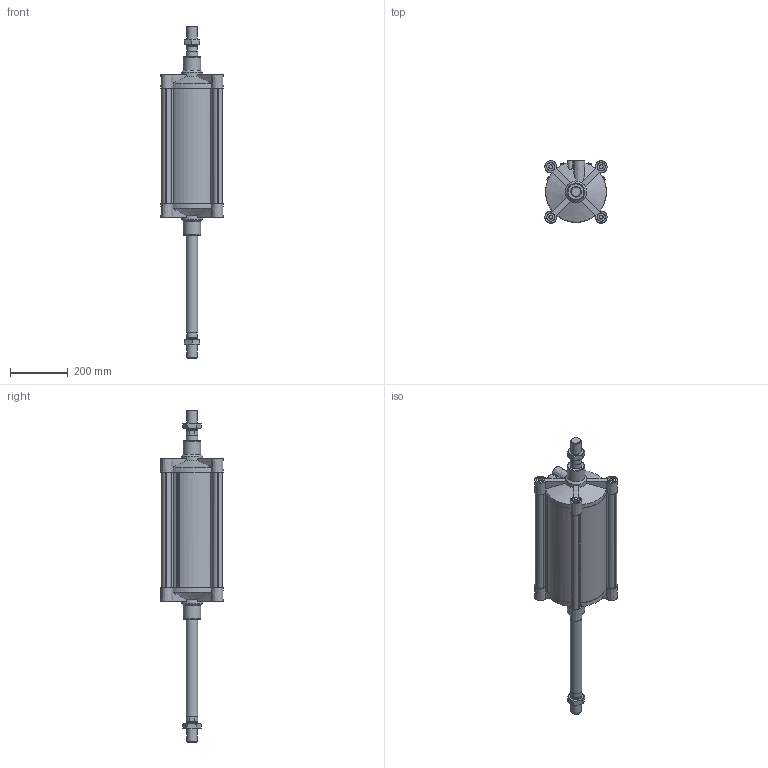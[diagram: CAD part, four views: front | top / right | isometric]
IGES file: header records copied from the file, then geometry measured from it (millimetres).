
Global section: file name: 139#_200_0320_02; native system: Autodesk Inventor 2014; preprocessor: unknown; author: F. Piloni; organization: Pneumax S.p.A.; date: 20151120.143234; units: millimetre
Bounding box: 216 x 216 x 1154 mm (x, y, z)
Volume: 9004883.3 mm3; surface area: 1390047.3 mm2
Topology: 6 solids, 6 shells, 324 faces, 844 edges, 567 vertices
Faces by surface type: bspline 324
